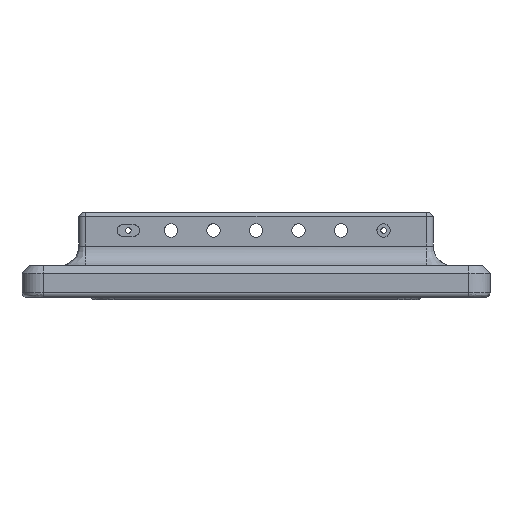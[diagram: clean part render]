
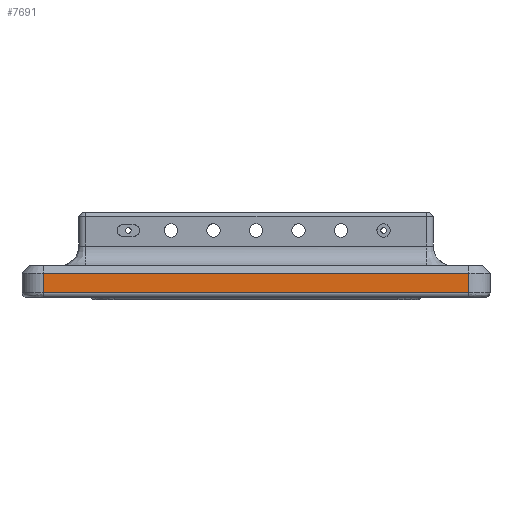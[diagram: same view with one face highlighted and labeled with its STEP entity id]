
A CAD part, left-side view. The second image highlights one B-rep face of the part: STEP entity #7691.
In plain terms, the highlighted planar face has unit normal (-1, 0, 0).
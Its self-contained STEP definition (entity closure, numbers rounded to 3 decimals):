
#3793=CARTESIAN_POINT('Vertex',(-240.,-150.,5.)) ;
#3816=CARTESIAN_POINT('Line Origine',(-240.,165.05,5.)) ;
#3820=CARTESIAN_POINT('Vertex',(-240.,150.,5.)) ;
#7653=CARTESIAN_POINT('Vertex',(-240.,-150.,19.)) ;
#7656=CARTESIAN_POINT('Line Origine',(-240.,-150.,24.)) ;
#7668=CARTESIAN_POINT('Axis2P3D Location',(-240.,150.,24.)) ;
#7673=CARTESIAN_POINT('Line Origine',(-240.,0.,19.)) ;
#7677=CARTESIAN_POINT('Vertex',(-240.,150.,19.)) ;
#7680=CARTESIAN_POINT('Line Origine',(-240.,150.,12.)) ;
#3817=DIRECTION('Vector Direction',(0.,-1.,0.)) ;
#7657=DIRECTION('Vector Direction',(0.,0.,-1.)) ;
#7669=DIRECTION('Axis2P3D Direction',(1.,0.,-0.)) ;
#7670=DIRECTION('Axis2P3D XDirection',(0.,0.,1.)) ;
#7674=DIRECTION('Vector Direction',(0.,-1.,0.)) ;
#7681=DIRECTION('Vector Direction',(0.,0.,-1.)) ;
#7671=AXIS2_PLACEMENT_3D('Plane Axis2P3D',#7668,#7669,#7670) ;
#7686=ORIENTED_EDGE('',*,*,#7679,.F.) ;
#7687=ORIENTED_EDGE('',*,*,#7684,.T.) ;
#7688=ORIENTED_EDGE('',*,*,#3822,.F.) ;
#7689=ORIENTED_EDGE('',*,*,#7660,.F.) ;
#3818=VECTOR('Line Direction',#3817,1.) ;
#7658=VECTOR('Line Direction',#7657,1.) ;
#7675=VECTOR('Line Direction',#7674,1.) ;
#7682=VECTOR('Line Direction',#7681,1.) ;
#7691=ADVANCED_FACE('H_GRUNDRAHMEN_300_450_SW50',(#7690),#7672,.F.) ;
#3822=EDGE_CURVE('',#3794,#3821,#3819,.F.) ;
#7660=EDGE_CURVE('',#7654,#3794,#7659,.T.) ;
#7679=EDGE_CURVE('',#7678,#7654,#7676,.T.) ;
#7684=EDGE_CURVE('',#7678,#3821,#7683,.T.) ;
#7685=EDGE_LOOP('',(#7686,#7687,#7688,#7689)) ;
#7690=FACE_OUTER_BOUND('',#7685,.T.) ;
#3819=LINE('Line',#3816,#3818) ;
#7659=LINE('Line',#7656,#7658) ;
#7676=LINE('Line',#7673,#7675) ;
#7683=LINE('Line',#7680,#7682) ;
#7672=PLANE('',#7671) ;
#3794=VERTEX_POINT('',#3793) ;
#3821=VERTEX_POINT('',#3820) ;
#7654=VERTEX_POINT('',#7653) ;
#7678=VERTEX_POINT('',#7677) ;
